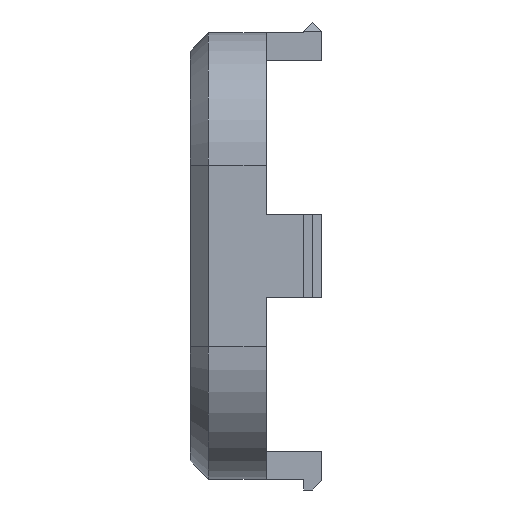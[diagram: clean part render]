
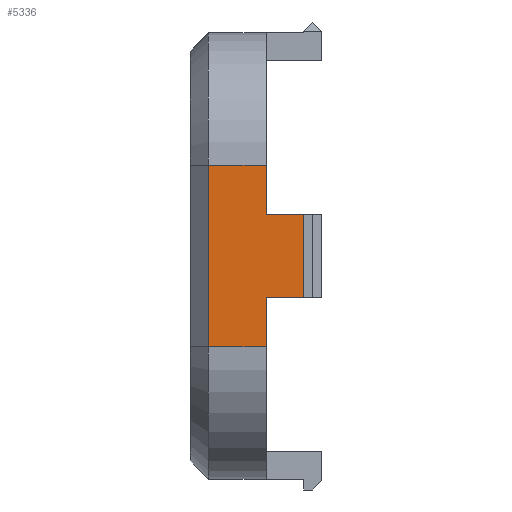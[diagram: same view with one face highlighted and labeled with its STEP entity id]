
A CAD part, left-side view. The second image highlights one B-rep face of the part: STEP entity #5336.
In plain terms, the highlighted planar face has unit normal (-1, 0, 0).
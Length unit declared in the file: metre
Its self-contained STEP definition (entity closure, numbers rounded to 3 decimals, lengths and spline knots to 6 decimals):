
#80=ORIENTED_EDGE('',*,*,#1629,.F.);
#81=ORIENTED_EDGE('',*,*,#1630,.T.);
#82=ORIENTED_EDGE('',*,*,#1627,.T.);
#83=ORIENTED_EDGE('',*,*,#1607,.F.);
#84=ORIENTED_EDGE('',*,*,#1631,.F.);
#85=ORIENTED_EDGE('',*,*,#1632,.T.);
#86=ORIENTED_EDGE('',*,*,#1633,.T.);
#87=ORIENTED_EDGE('',*,*,#1601,.F.);
#1601=EDGE_CURVE('',#2378,#2379,#2891,.T.);
#1607=EDGE_CURVE('',#2383,#2385,#2896,.T.);
#1627=EDGE_CURVE('',#2401,#2385,#2912,.T.);
#1629=EDGE_CURVE('',#2402,#2378,#2913,.T.);
#1630=EDGE_CURVE('',#2402,#2401,#2914,.T.);
#1631=EDGE_CURVE('',#2403,#2383,#2915,.T.);
#1632=EDGE_CURVE('',#2403,#2404,#2916,.T.);
#1633=EDGE_CURVE('',#2404,#2379,#2917,.T.);
#2378=VERTEX_POINT('',#7230);
#2379=VERTEX_POINT('',#7232);
#2383=VERTEX_POINT('',#7242);
#2385=VERTEX_POINT('',#7245);
#2401=VERTEX_POINT('',#7285);
#2402=VERTEX_POINT('',#7289);
#2403=VERTEX_POINT('',#7292);
#2404=VERTEX_POINT('',#7294);
#2891=LINE('',#7231,#3648);
#2896=LINE('',#7244,#3653);
#2912=LINE('',#7284,#3669);
#2913=LINE('',#7288,#3670);
#2914=LINE('',#7290,#3671);
#2915=LINE('',#7291,#3672);
#2916=LINE('',#7293,#3673);
#2917=LINE('',#7295,#3674);
#3648=VECTOR('',#5901,1.);
#3653=VECTOR('',#5910,1.);
#3669=VECTOR('',#5942,1.);
#3670=VECTOR('',#5947,1.);
#3671=VECTOR('',#5948,1.);
#3672=VECTOR('',#5949,1.);
#3673=VECTOR('',#5950,1.);
#3674=VECTOR('',#5951,1.);
#4409=EDGE_LOOP('',(#80,#81,#82,#83,#84,#85,#86,#87));
#4746=FACE_BOUND('',#4409,.T.);
#5081=PLANE('',#5621);
#5336=ADVANCED_FACE('',(#4746),#5081,.T.);
#5621=AXIS2_PLACEMENT_3D('',#7287,#5945,#5946);
#5901=DIRECTION('',(0.,0.,-1.));
#5910=DIRECTION('',(0.,0.,-1.));
#5942=DIRECTION('',(0.,-1.,0.));
#5945=DIRECTION('',(-1.,0.,0.));
#5946=DIRECTION('',(0.,0.,1.));
#5947=DIRECTION('',(0.,-1.,0.));
#5948=DIRECTION('',(0.,0.,-1.));
#5949=DIRECTION('',(0.,1.,0.));
#5950=DIRECTION('',(0.,0.,1.));
#5951=DIRECTION('',(0.,1.,0.));
#7230=CARTESIAN_POINT('',(-0.0793,0.0092,-0.025505));
#7231=CARTESIAN_POINT('',(-0.0793,0.0092,-0.030505));
#7232=CARTESIAN_POINT('',(-0.0793,0.0092,-0.028205));
#7242=CARTESIAN_POINT('',(-0.0793,0.0092,-0.032805));
#7244=CARTESIAN_POINT('',(-0.0793,0.0092,-0.030505));
#7245=CARTESIAN_POINT('',(-0.0793,0.0092,-0.035505));
#7284=CARTESIAN_POINT('',(-0.0793,0.327433,-0.035505));
#7285=CARTESIAN_POINT('',(-0.0793,0.01239,-0.035505));
#7287=CARTESIAN_POINT('',(-0.0793,0.327433,-0.030505));
#7288=CARTESIAN_POINT('',(-0.0793,0.327433,-0.025505));
#7289=CARTESIAN_POINT('',(-0.0793,0.01239,-0.025505));
#7290=CARTESIAN_POINT('',(-0.0793,0.01239,-0.030505));
#7291=CARTESIAN_POINT('',(-0.0793,-0.308583,-0.032805));
#7292=CARTESIAN_POINT('',(-0.0793,0.00715,-0.032805));
#7293=CARTESIAN_POINT('',(-0.0793,0.00715,-0.030505));
#7294=CARTESIAN_POINT('',(-0.0793,0.00715,-0.028205));
#7295=CARTESIAN_POINT('',(-0.0793,-0.308583,-0.028205));
